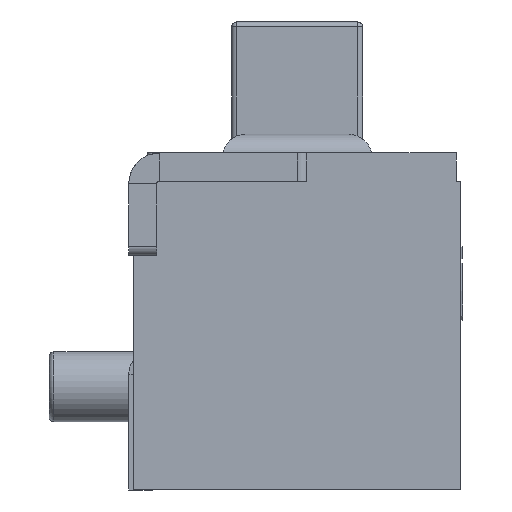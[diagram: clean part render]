
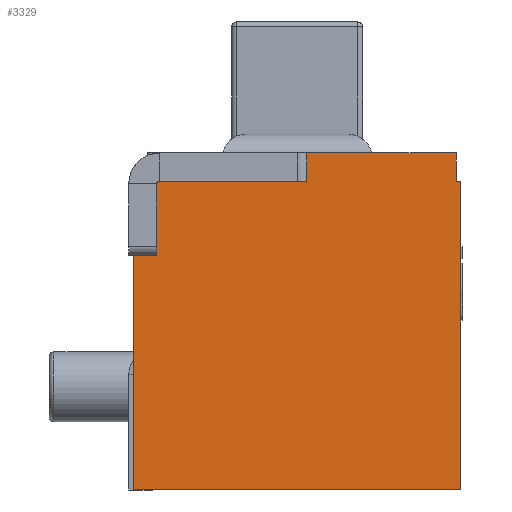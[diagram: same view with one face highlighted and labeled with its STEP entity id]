
A CAD part, left-side view. The second image highlights one B-rep face of the part: STEP entity #3329.
In plain terms, the highlighted planar face has unit normal (-1, 0, 0).
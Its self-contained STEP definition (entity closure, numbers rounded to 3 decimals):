
#293=DIRECTION('',(0.,-1.,0.));
#294=VECTOR('',#293,3.5);
#295=CARTESIAN_POINT('',(6.465,17.334,-1.3));
#296=LINE('',#295,#294);
#401=DIRECTION('',(0.,-1.,0.));
#402=VECTOR('',#401,1.57);
#403=CARTESIAN_POINT('',(6.465,17.054,2.));
#404=LINE('',#403,#402);
#405=DIRECTION('',(0.,-1.,0.));
#406=VECTOR('',#405,1.6);
#407=CARTESIAN_POINT('',(6.465,15.484,2.3));
#408=LINE('',#407,#406);
#409=DIRECTION('',(0.,0.,-1.));
#410=VECTOR('',#409,0.3);
#411=CARTESIAN_POINT('',(6.465,13.884,2.3));
#412=LINE('',#411,#410);
#413=DIRECTION('',(0.,0.,-1.));
#414=VECTOR('',#413,3.3);
#415=CARTESIAN_POINT('',(6.465,13.834,2.));
#416=LINE('',#415,#414);
#417=DIRECTION('',(0.,0.,1.));
#418=VECTOR('',#417,3.3);
#419=CARTESIAN_POINT('',(6.465,17.334,-1.3));
#420=LINE('',#419,#418);
#421=DIRECTION('',(0.,-1.,0.));
#422=VECTOR('',#421,0.13);
#423=CARTESIAN_POINT('',(6.465,17.184,2.));
#424=LINE('',#423,#422);
#487=DIRECTION('',(0.,1.,0.));
#488=VECTOR('',#487,0.15);
#489=CARTESIAN_POINT('',(6.465,17.184,2.));
#490=LINE('',#489,#488);
#503=DIRECTION('',(0.,1.,0.));
#504=VECTOR('',#503,0.05);
#505=CARTESIAN_POINT('',(6.465,13.834,2.));
#506=LINE('',#505,#504);
#965=DIRECTION('',(0.,0.,-1.));
#966=VECTOR('',#965,0.3);
#967=CARTESIAN_POINT('',(6.465,15.484,2.3));
#968=LINE('',#967,#966);
#2133=CARTESIAN_POINT('',(6.465,13.834,-1.3));
#2135=VERTEX_POINT('',#2133);
#2137=CARTESIAN_POINT('',(6.465,17.334,-1.3));
#2138=CARTESIAN_POINT('',(6.465,17.334,2.));
#2139=VERTEX_POINT('',#2137);
#2140=VERTEX_POINT('',#2138);
#2141=CARTESIAN_POINT('',(6.465,13.834,2.));
#2142=VERTEX_POINT('',#2141);
#2303=CARTESIAN_POINT('',(6.465,13.884,2.3));
#2304=VERTEX_POINT('',#2303);
#2305=CARTESIAN_POINT('',(6.465,15.484,2.3));
#2306=VERTEX_POINT('',#2305);
#2523=CARTESIAN_POINT('',(6.465,17.054,2.));
#2524=CARTESIAN_POINT('',(6.465,15.484,2.));
#2525=VERTEX_POINT('',#2523);
#2526=VERTEX_POINT('',#2524);
#2527=CARTESIAN_POINT('',(6.465,17.184,2.));
#2528=VERTEX_POINT('',#2527);
#2531=CARTESIAN_POINT('',(6.465,13.884,2.));
#2533=VERTEX_POINT('',#2531);
#3304=CARTESIAN_POINT('',(6.465,15.584,0.35));
#3305=DIRECTION('',(1.,0.,0.));
#3306=DIRECTION('',(0.,1.,0.));
#3307=AXIS2_PLACEMENT_3D('',#3304,#3305,#3306);
#3308=PLANE('',#3307);
#3310=ORIENTED_EDGE('',*,*,#3309,.T.);
#3312=ORIENTED_EDGE('',*,*,#3311,.F.);
#3314=ORIENTED_EDGE('',*,*,#3313,.T.);
#3316=ORIENTED_EDGE('',*,*,#3315,.T.);
#3318=ORIENTED_EDGE('',*,*,#3317,.F.);
#3320=ORIENTED_EDGE('',*,*,#3319,.T.);
#3321=ORIENTED_EDGE('',*,*,#3141,.F.);
#3322=ORIENTED_EDGE('',*,*,#2740,.T.);
#3324=ORIENTED_EDGE('',*,*,#3323,.F.);
#3326=ORIENTED_EDGE('',*,*,#3325,.T.);
#3327=EDGE_LOOP('',(#3310,#3312,#3314,#3316,#3318,#3320,#3321,#3322,#3324,
#3326));
#3328=FACE_OUTER_BOUND('',#3327,.F.);
#2740=EDGE_CURVE('',#2139,#2140,#420,.T.);
#3141=EDGE_CURVE('',#2139,#2135,#296,.T.);
#3309=EDGE_CURVE('',#2525,#2526,#404,.T.);
#3311=EDGE_CURVE('',#2306,#2526,#968,.T.);
#3313=EDGE_CURVE('',#2306,#2304,#408,.T.);
#3315=EDGE_CURVE('',#2304,#2533,#412,.T.);
#3317=EDGE_CURVE('',#2142,#2533,#506,.T.);
#3319=EDGE_CURVE('',#2142,#2135,#416,.T.);
#3323=EDGE_CURVE('',#2528,#2140,#490,.T.);
#3325=EDGE_CURVE('',#2528,#2525,#424,.T.);
#3329=ADVANCED_FACE('',(#3328),#3308,.F.);
